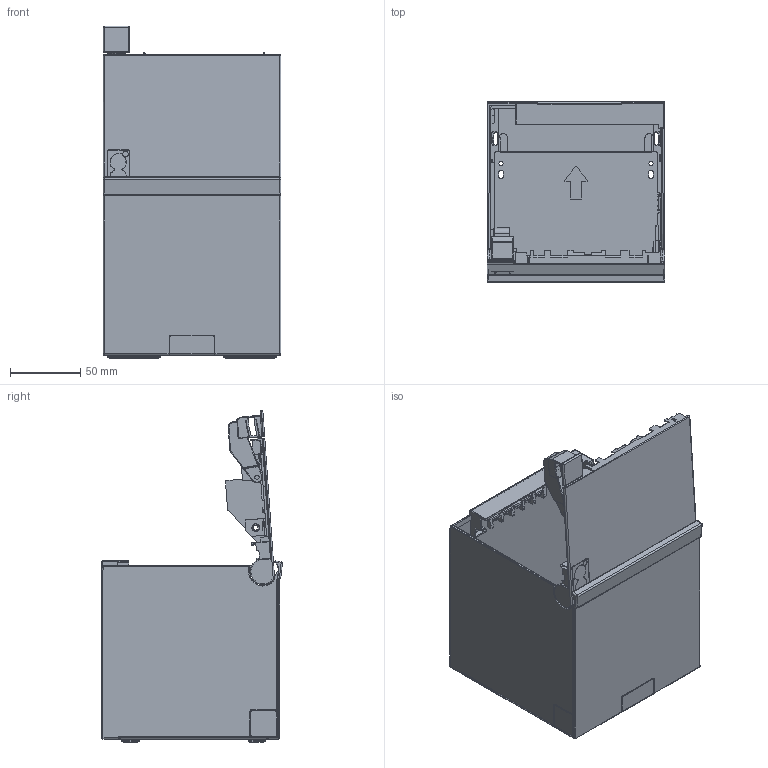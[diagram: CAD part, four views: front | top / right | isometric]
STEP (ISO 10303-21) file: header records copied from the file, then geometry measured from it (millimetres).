
FILE_DESCRIPTION((''),'2;1');
FILE_NAME('TM-M30III_TOP_OPEN_SW0001','2025-01-23T14:46:47',('0092109'),(''),'CREO PARAMETRIC BY PTC INC, 2022281','CREO PARAMETRIC BY PTC INC, 2022281','');
FILE_SCHEMA(('AUTOMOTIVE_DESIGN { 1 0 10303 214 1 1 1 1 }'));
Products named in the file (1): TM-M30III_TOP_OPEN_SW0001
Bounding box: 127 x 129.03 x 236.9 mm (x, y, z)
Surface area: 213784.3 mm2 (no closed solid volume)
Topology: 0 solids, 25 shells, 2478 faces, 7449 edges, 4916 vertices
Faces by surface type: plane 1308, cylinder 851, torus 169, bspline 65, sphere 58, cone 26, extrusion 1
Entity records: 88199 total; most frequent: CARTESIAN_POINT 21018, DIRECTION 13997, ORIENTED_EDGE 13599, EDGE_CURVE 7449, VECTOR 5043, LINE 5042, VERTEX_POINT 4916, AXIS2_PLACEMENT_3D 4477
